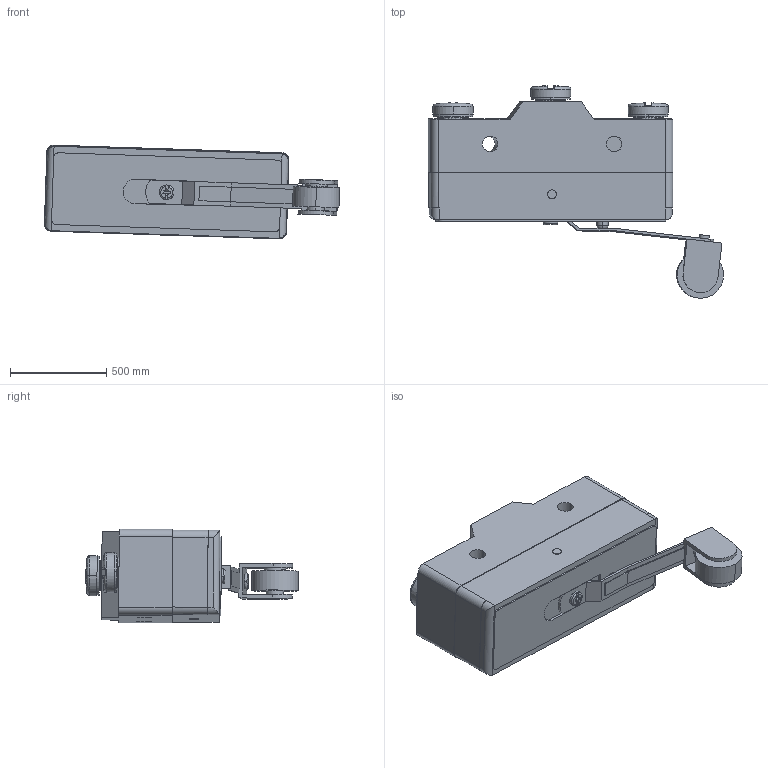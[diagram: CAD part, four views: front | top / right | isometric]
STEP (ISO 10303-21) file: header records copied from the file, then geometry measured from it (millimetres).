
FILE_DESCRIPTION((''),'2;1');
FILE_NAME('ASM0010_ASM','2016-08-15T',('ABS'),(''),'PRO/ENGINEER BY PARAMETRIC TECHNOLOGY CORPORATION, 2012360','PRO/ENGINEER BY PARAMETRIC TECHNOLOGY CORPORATION, 2012360','');
FILE_SCHEMA(('CONFIG_CONTROL_DESIGN'));
Products named in the file (1): ASM0010_ASM
Bounding box: 1534.92 x 1104.3 x 487.37 mm (x, y, z)
Volume: 247605564.2 mm3; surface area: 6906017.3 mm2
Topology: 1 solids, 12 shells, 1028 faces, 2936 edges, 1944 vertices
Faces by surface type: cylinder 600, plane 298, bspline 72, torus 40, sphere 17, cone 1
Entity records: 46072 total; most frequent: CARTESIAN_POINT 20332, ORIENTED_EDGE 5852, DIRECTION 4808, EDGE_CURVE 2926, VERTEX_POINT 1944, AXIS2_PLACEMENT_3D 1796, VECTOR 1216, LINE 1216
